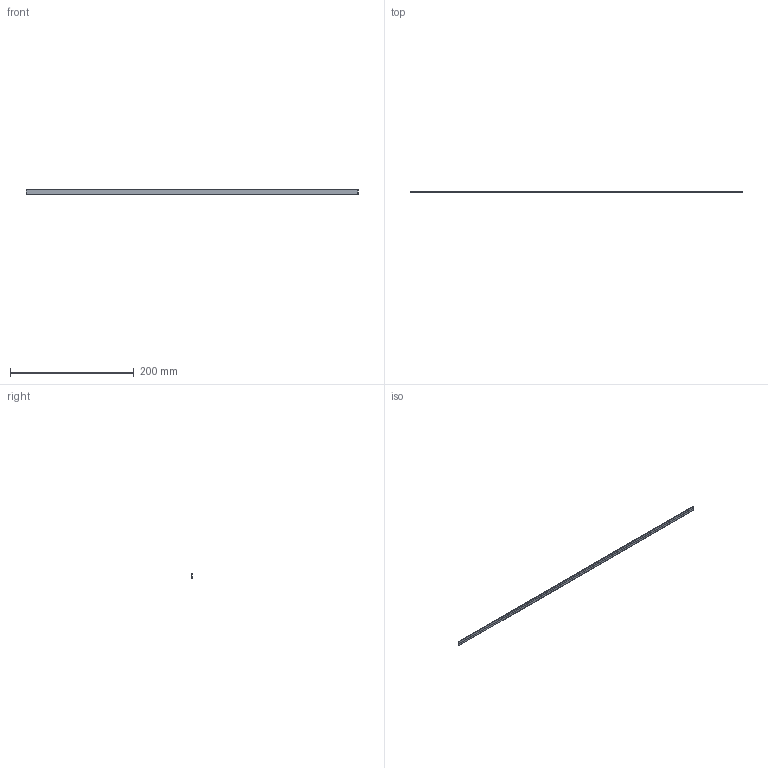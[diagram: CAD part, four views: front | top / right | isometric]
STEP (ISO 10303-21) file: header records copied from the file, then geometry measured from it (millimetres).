
FILE_DESCRIPTION (( 'STEP AP214' ), '1' );
FILE_NAME ('Posic_TPLA16.STEP', '2018-07-20T07:03:46', ( '' ), ( '' ), 'SwSTEP 2.0', 'SolidWorks 2018', '' );
FILE_SCHEMA (( 'AUTOMOTIVE_DESIGN' ));
Length unit declared in the file: millimetre
Products named in the file (1): Posic_TPLA16
Bounding box: 537.6 x 0.92 x 7.5 mm (x, y, z)
Volume: 3646.7 mm3; surface area: 9280.3 mm2
Topology: 1 solids, 1 shells, 4351 faces, 10440 edges, 6960 vertices
Faces by surface type: plane 4351
Entity records: 171383 total; most frequent: CARTESIAN_POINT 21752, ORIENTED_EDGE 20880, DIRECTION 19144, EDGE_CURVE 10440, VECTOR 10440, LINE 10440, VERTEX_POINT 6960, EDGE_LOOP 5220
